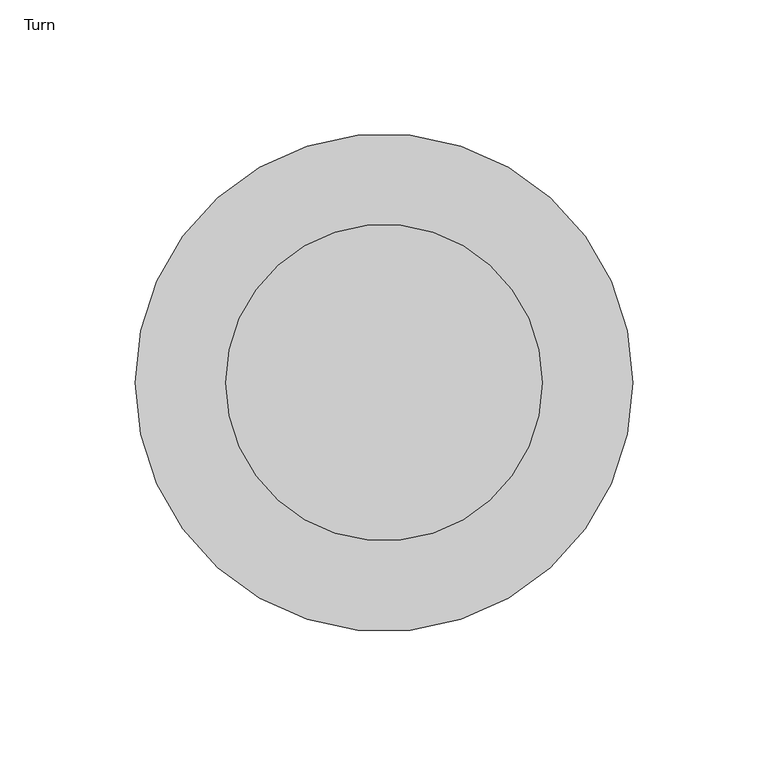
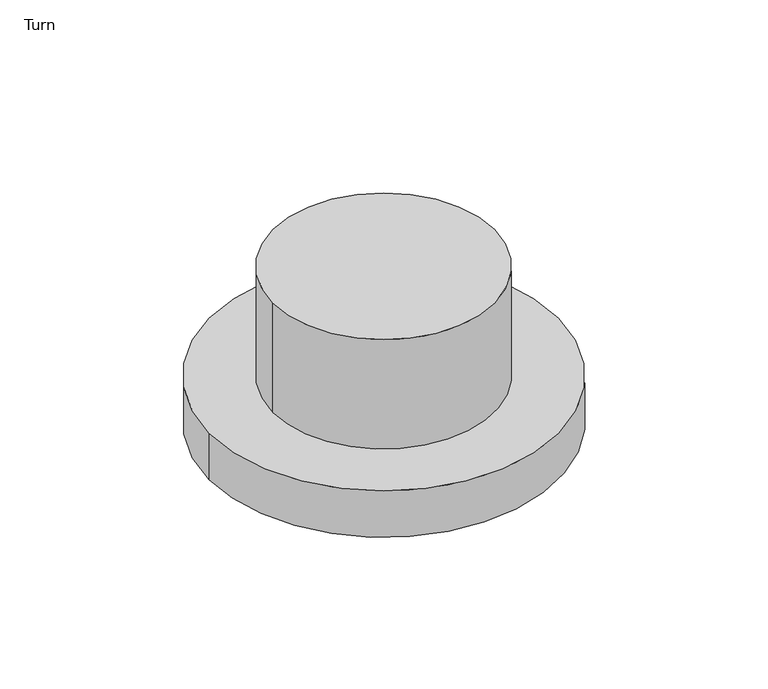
"""IFC4 building model written with IfcOpenShell, lengths in millimetres: air terminal geometry, NLRS_57_AIR_WPB_extraction air valve_M&G : Turn."""

from ifc_helpers import new_model, si_unit, point, frame, origin, origin_with_axes, origin_2d, place, context, project, spatial, circle_curve, trimmed, segment, composite_curve, outline, extrude, source, transform, mapped, element, save


def turn_edecbddc(model_context):
    return source(origin(), model_context, "Body", "SweptSolid", [
        extrude(outline(composite_curve([segment(trimmed(circle_curve(origin_2d(), 58.5), [point((-58.5, 0.0))], [point((58.5, 0.0))], False, "CARTESIAN"), True, "CONTINUOUS"), segment(trimmed(circle_curve(origin_2d(), 58.5), [point((58.5, 0.0))], [point((-58.5, 0.0))], False, "CARTESIAN"), True, "CONTINUOUS")], self_intersect=False)), origin_with_axes(), (0.0, 0.0, 1.0), 61.0),
        extrude(outline(composite_curve([segment(trimmed(circle_curve(origin_2d(), 92.0), [point((-92.0, 0.0))], [point((92.0, 0.0))], False, "CARTESIAN"), True, "CONTINUOUS"), segment(trimmed(circle_curve(origin_2d(), 92.0), [point((92.0, 0.0))], [point((-92.0, 0.0))], False, "CARTESIAN"), True, "CONTINUOUS")], self_intersect=False)), frame((0.0, 0.0, -26.0), z_axis=(0.0, 0.0, 1.0), x_axis=(1.0, 0.0, 0.0)), (0.0, 0.0, 1.0), 26.0),
    ])


if __name__ == "__main__":
    model = new_model("IFC4")
    model_context = context("Model", 3, world=origin())
    ifc_project = project(units=[si_unit("LENGTHUNIT", "METRE", prefix="MILLI")], contexts=[model_context])
    site = spatial("IfcSite", under=ifc_project)
    building = spatial("IfcBuilding", under=site)
    placement = place(None, origin())
    turn_shape = turn_edecbddc(model_context)
    element("IfcAirTerminal", 1, ObjectType="NLRS_57_AIR_WPB_extraction air valve_M&G : Turn", at=placement, inside=building, context=model_context, shape_type="MappedRepresentation", body=[
        mapped(turn_shape, transform((0.0, 0.0, 0.0), x_axis=(1.0, 0.0, 0.0), y_axis=(0.0, 1.0, 0.0), z_axis=(0.0, 0.0, 1.0))),
    ])
    save(model, "model.ifc")
